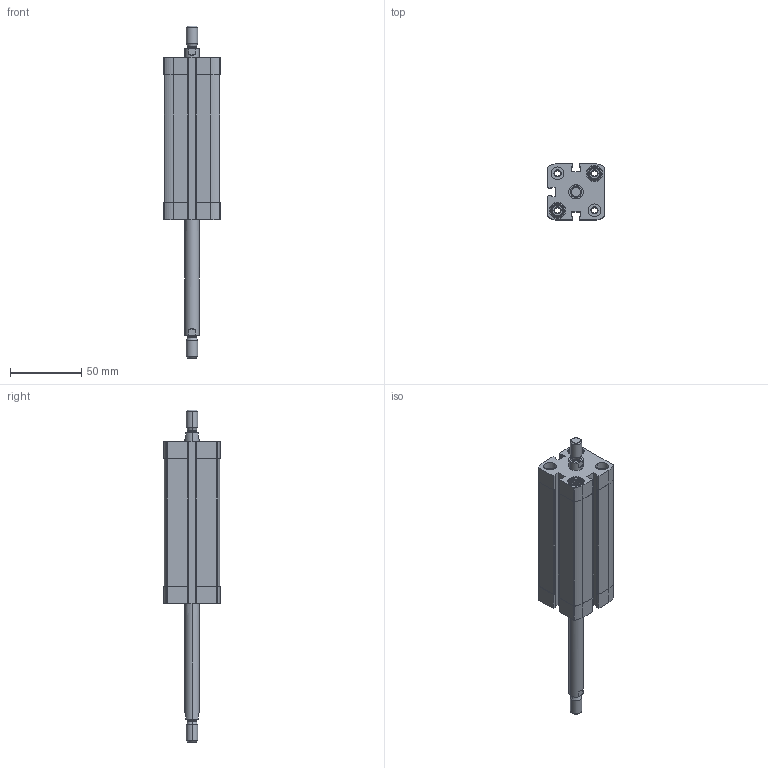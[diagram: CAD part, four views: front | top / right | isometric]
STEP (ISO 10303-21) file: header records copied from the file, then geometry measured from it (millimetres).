
FILE_DESCRIPTION (( 'STEP AP203' ), '1' );
FILE_NAME ('CCN25-75-P.STEP', '2020-06-22T18:44:05', ( '' ), ( '' ), 'SwSTEP 2.0', 'SolidWorks 2019', '' );
FILE_SCHEMA (( 'CONFIG_CONTROL_DESIGN' ));
Length unit declared in the file: millimetre
Products named in the file (1): CCN25-75-P
Bounding box: 39.5 x 39.5 x 233.5 mm (x, y, z)
Volume: 127590.9 mm3; surface area: 50086.3 mm2
Topology: 2 solids, 2 shells, 428 faces, 1122 edges, 730 vertices
Faces by surface type: plane 236, cylinder 140, cone 44, torus 8
Entity records: 13443 total; most frequent: CARTESIAN_POINT 2581, DIRECTION 2318, ORIENTED_EDGE 2244, EDGE_CURVE 1122, AXIS2_PLACEMENT_3D 867, VERTEX_POINT 730, LINE 584, VECTOR 584
